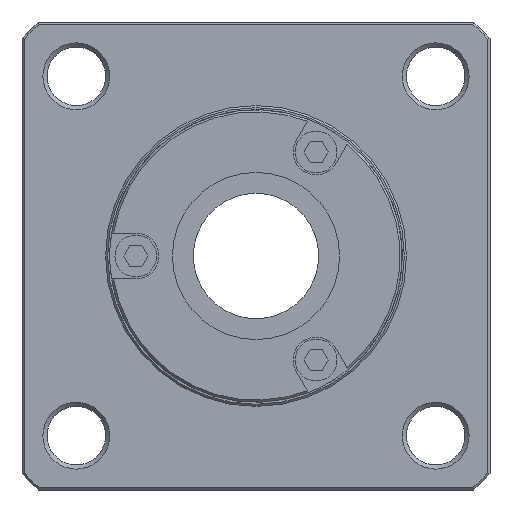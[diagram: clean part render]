
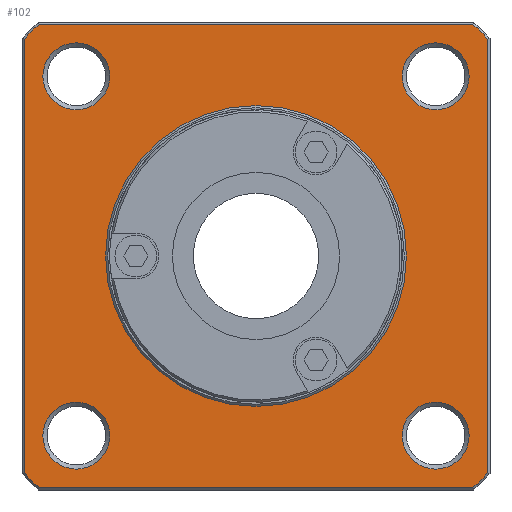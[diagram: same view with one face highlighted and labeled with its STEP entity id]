
A CAD part, left-side view. The second image highlights one B-rep face of the part: STEP entity #102.
In plain terms, the highlighted planar face has unit normal (-1, 0, 0).
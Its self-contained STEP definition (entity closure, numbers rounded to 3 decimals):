
#102=ADVANCED_FACE('',(#318,#319,#320,#321,#322,#323),#324,.T.);
#318=FACE_BOUND('',#745,.T.);
#319=FACE_BOUND('',#746,.T.);
#320=FACE_BOUND('',#747,.T.);
#321=FACE_BOUND('',#748,.T.);
#322=FACE_OUTER_BOUND('',#749,.T.);
#323=FACE_BOUND('',#750,.T.);
#324=PLANE('',#751);
#745=EDGE_LOOP('',(#1289));
#746=EDGE_LOOP('',(#1290));
#747=EDGE_LOOP('',(#1291));
#748=EDGE_LOOP('',(#1292));
#749=EDGE_LOOP('',(#1293,#1294,#1295,#1296,#1297,#1298,#1299,#1300));
#750=EDGE_LOOP('',(#1301));
#751=AXIS2_PLACEMENT_3D('',#1302,#1303,#1304);
#1289=ORIENTED_EDGE('',*,*,#2477,.T.);
#1290=ORIENTED_EDGE('',*,*,#2478,.T.);
#1291=ORIENTED_EDGE('',*,*,#2479,.T.);
#1292=ORIENTED_EDGE('',*,*,#2480,.T.);
#1293=ORIENTED_EDGE('',*,*,#2456,.T.);
#1294=ORIENTED_EDGE('',*,*,#2453,.T.);
#1295=ORIENTED_EDGE('',*,*,#2481,.T.);
#1296=ORIENTED_EDGE('',*,*,#2482,.T.);
#1297=ORIENTED_EDGE('',*,*,#2483,.T.);
#1298=ORIENTED_EDGE('',*,*,#2484,.T.);
#1299=ORIENTED_EDGE('',*,*,#2462,.T.);
#1300=ORIENTED_EDGE('',*,*,#2459,.T.);
#1301=ORIENTED_EDGE('',*,*,#2485,.F.);
#1302=CARTESIAN_POINT('',(4.0,36.0,0.0));
#1303=DIRECTION('',(-1.0,0.0,0.0));
#1304=DIRECTION('',(0.0,0.0,1.0));
#2453=EDGE_CURVE('',#2875,#2880,#2882,.T.);
#2456=EDGE_CURVE('',#2883,#2875,#2887,.T.);
#2459=EDGE_CURVE('',#2888,#2883,#2892,.T.);
#2462=EDGE_CURVE('',#2893,#2888,#2897,.T.);
#2477=EDGE_CURVE('',#2926,#2926,#2927,.F.);
#2478=EDGE_CURVE('',#2928,#2928,#2929,.F.);
#2479=EDGE_CURVE('',#2930,#2930,#2931,.F.);
#2480=EDGE_CURVE('',#2932,#2932,#2933,.F.);
#2481=EDGE_CURVE('',#2880,#2934,#2935,.T.);
#2482=EDGE_CURVE('',#2934,#2936,#2937,.T.);
#2483=EDGE_CURVE('',#2936,#2938,#2939,.T.);
#2484=EDGE_CURVE('',#2938,#2893,#2940,.T.);
#2485=EDGE_CURVE('',#2941,#2941,#2942,.T.);
#2875=VERTEX_POINT('',#3589);
#2880=VERTEX_POINT('',#3598);
#2882=LINE('',#3603,#3604);
#2883=VERTEX_POINT('',#3605);
#2887=CIRCLE('',#3612,76.0);
#2888=VERTEX_POINT('',#3613);
#2892=LINE('',#3621,#3622);
#2893=VERTEX_POINT('',#3623);
#2897=CIRCLE('',#3630,76.0);
#2926=VERTEX_POINT('',#3718);
#2927=CIRCLE('',#3719,8.0);
#2928=VERTEX_POINT('',#3720);
#2929=CIRCLE('',#3721,8.0);
#2930=VERTEX_POINT('',#3722);
#2931=CIRCLE('',#3723,8.0);
#2932=VERTEX_POINT('',#3724);
#2933=CIRCLE('',#3725,8.0);
#2934=VERTEX_POINT('',#3726);
#2935=CIRCLE('',#3727,76.0);
#2936=VERTEX_POINT('',#3728);
#2937=LINE('',#3729,#3730);
#2938=VERTEX_POINT('',#3731);
#2939=CIRCLE('',#3732,76.0);
#2940=LINE('',#3733,#3734);
#2941=VERTEX_POINT('',#3735);
#2942=CIRCLE('',#3736,36.0);
#3589=CARTESIAN_POINT('',(4.0,51.921,-55.5));
#3598=CARTESIAN_POINT('',(4.0,-51.921,-55.5));
#3603=CARTESIAN_POINT('',(4.0,36.0,-55.5));
#3604=VECTOR('',#4724,1.0);
#3605=CARTESIAN_POINT('',(4.0,55.5,-51.921));
#3612=AXIS2_PLACEMENT_3D('',#4728,#4729,#4730);
#3613=CARTESIAN_POINT('',(4.0,55.5,51.921));
#3621=CARTESIAN_POINT('',(4.0,55.5,0.0));
#3622=VECTOR('',#4732,1.0);
#3623=CARTESIAN_POINT('',(4.0,51.921,55.5));
#3630=AXIS2_PLACEMENT_3D('',#4736,#4737,#4738);
#3718=CARTESIAN_POINT('',(4.0,43.0,51.0));
#3719=AXIS2_PLACEMENT_3D('',#4778,#4779,#4780);
#3720=CARTESIAN_POINT('',(4.0,-43.0,51.0));
#3721=AXIS2_PLACEMENT_3D('',#4781,#4782,#4783);
#3722=CARTESIAN_POINT('',(4.0,43.0,-35.0));
#3723=AXIS2_PLACEMENT_3D('',#4784,#4785,#4786);
#3724=CARTESIAN_POINT('',(4.0,-43.0,-35.0));
#3725=AXIS2_PLACEMENT_3D('',#4787,#4788,#4789);
#3726=CARTESIAN_POINT('',(4.0,-55.5,-51.921));
#3727=AXIS2_PLACEMENT_3D('',#4790,#4791,#4792);
#3728=CARTESIAN_POINT('',(4.0,-55.5,51.921));
#3729=CARTESIAN_POINT('',(4.0,-55.5,0.0));
#3730=VECTOR('',#4793,1.0);
#3731=CARTESIAN_POINT('',(4.0,-51.921,55.5));
#3732=AXIS2_PLACEMENT_3D('',#4794,#4795,#4796);
#3733=CARTESIAN_POINT('',(4.0,36.0,55.5));
#3734=VECTOR('',#4797,1.0);
#3735=CARTESIAN_POINT('',(4.0,0.0,36.0));
#3736=AXIS2_PLACEMENT_3D('',#4798,#4799,#4800);
#4724=DIRECTION('',(0.0,-1.0,0.0));
#4728=CARTESIAN_POINT('',(4.0,0.0,0.0));
#4729=DIRECTION('',(-1.0,0.0,0.0));
#4730=DIRECTION('',(0.0,0.0,1.0));
#4732=DIRECTION('',(0.0,0.0,-1.0));
#4736=CARTESIAN_POINT('',(4.0,0.0,0.0));
#4737=DIRECTION('',(-1.0,0.0,0.0));
#4738=DIRECTION('',(0.0,0.0,1.0));
#4778=CARTESIAN_POINT('',(4.0,43.0,43.0));
#4779=DIRECTION('',(-1.0,0.0,0.0));
#4780=DIRECTION('',(0.0,0.0,1.0));
#4781=CARTESIAN_POINT('',(4.0,-43.0,43.0));
#4782=DIRECTION('',(-1.0,0.0,0.0));
#4783=DIRECTION('',(0.0,0.0,1.0));
#4784=CARTESIAN_POINT('',(4.0,43.0,-43.0));
#4785=DIRECTION('',(-1.0,0.0,0.0));
#4786=DIRECTION('',(0.0,0.0,1.0));
#4787=CARTESIAN_POINT('',(4.0,-43.0,-43.0));
#4788=DIRECTION('',(-1.0,0.0,0.0));
#4789=DIRECTION('',(0.0,0.0,1.0));
#4790=CARTESIAN_POINT('',(4.0,0.0,0.0));
#4791=DIRECTION('',(-1.0,0.0,0.0));
#4792=DIRECTION('',(0.0,0.0,1.0));
#4793=DIRECTION('',(0.0,0.0,1.0));
#4794=CARTESIAN_POINT('',(4.0,0.0,0.0));
#4795=DIRECTION('',(-1.0,0.0,0.0));
#4796=DIRECTION('',(0.0,0.0,1.0));
#4797=DIRECTION('',(0.0,1.0,0.0));
#4798=CARTESIAN_POINT('',(4.0,0.0,0.0));
#4799=DIRECTION('',(-1.0,0.0,0.0));
#4800=DIRECTION('',(0.0,0.0,1.0));
